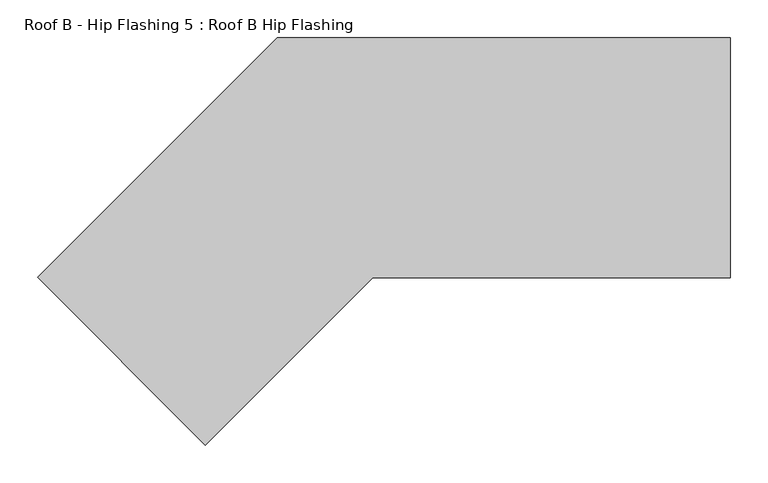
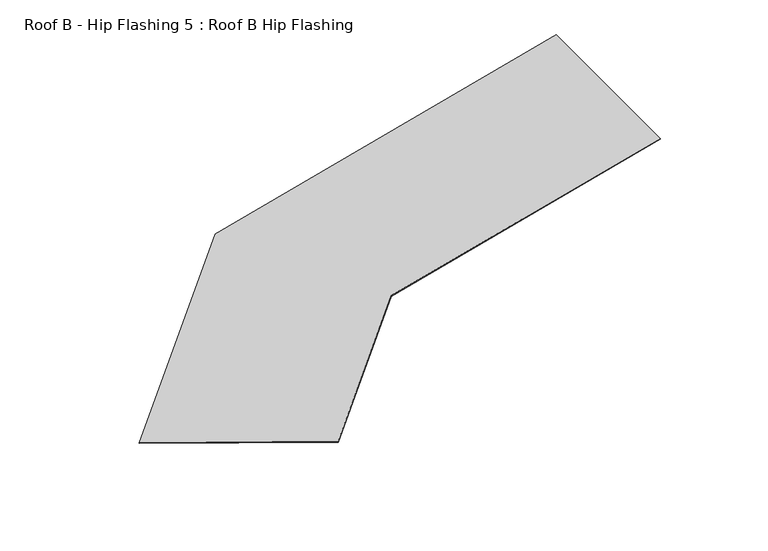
"""IFC4 building model written with IfcOpenShell, lengths in millimetres: proxy geometry, Roof B - Hip Flashing 5 : Roof B Hip Flashing."""

from ifc_helpers import new_model, si_unit, origin, place, context, project, spatial, faceted_brep, source, transform, mapped, element, save


def roof_b_hip_flashing_5_roof_b_hip_flashing_d5f08a0e(model_context):
    return source(origin(), model_context, "Body", "Brep", [
        faceted_brep([(-4427.9400839, -12998.9498744, 3027.1449194), (-4427.9400839, -12998.9498744, 3028.8013612), (-4109.0648721, -12680.0746626, 3114.2437167), (-4109.0648721, -12680.0746626, 3112.5872749), (-3982.3128189, -12999.5745262, 3148.206827), (-3506.6492348, -12999.5745262, 3275.6605003), (-3506.6492348, -12680.0746626, 3275.6605003), (-4204.8141255, -13222.0758328, 3088.5877816), (-3506.6492348, -12999.5745262, 3274.0040584), (-3982.3128189, -12999.5745262, 3146.5503852), (-4204.8141255, -13222.0758328, 3086.9313397), (-3506.6492348, -12680.0746626, 3274.0040584)], [[[0, 1, 2, 3]], [[4, 5, 6, 2, 1, 7]], [[8, 9, 10, 0, 3, 11]], [[4, 9, 8, 5]], [[9, 4, 7, 10]], [[5, 8, 11, 6]], [[1, 0, 10, 7]], [[3, 2, 6, 11]]]),
    ])


if __name__ == "__main__":
    model = new_model("IFC4")
    model_context = context("Model", 3, world=origin())
    ifc_project = project(units=[si_unit("LENGTHUNIT", "METRE", prefix="MILLI")], contexts=[model_context])
    site = spatial("IfcSite", under=ifc_project)
    building = spatial("IfcBuilding", under=site)
    placement = place(None, origin())
    roof_b_hip_flashing_5_roof_b_hip_flashing_shape = roof_b_hip_flashing_5_roof_b_hip_flashing_d5f08a0e(model_context)
    element("IfcBuildingElementProxy", 1, Name="Roof B - Hip Flashing 5 : Roof B Hip Flashing", ObjectType="Roof B - Hip Flashing 5 : Roof B Hip Flashing", at=placement, inside=building, context=model_context, shape_type="MappedRepresentation", body=[
        mapped(roof_b_hip_flashing_5_roof_b_hip_flashing_shape, transform((0.0, 0.0, 0.0), x_axis=(1.0, 0.0, 0.0), y_axis=(0.0, 1.0, 0.0), z_axis=(0.0, 0.0, 1.0))),
    ])
    save(model, "model.ifc")
